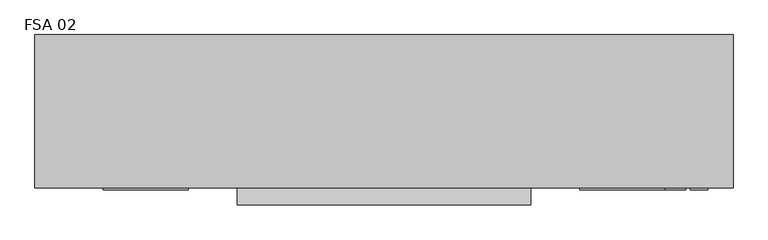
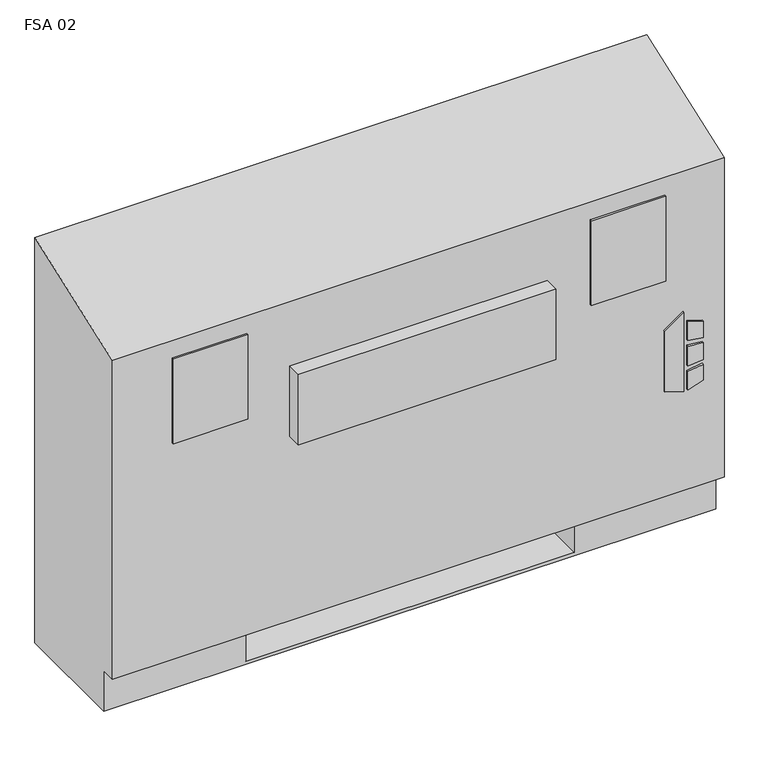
"""IFC4 building model written with IfcOpenShell, lengths in millimetres: proxy geometry, Vertical_Fan_Coil_Unit_-_FSA_-_IEC_-_2-Pipe_FS-FR_RH_2022 : FSA 02."""

from ifc_helpers import new_model, si_unit, point, frame, frame_2d, origin, place, context, project, spatial, polyline, circle_curve, trimmed, segment, composite_curve, outline, extrude, source, transform, mapped, element, save
from ifc_brep_helpers import plane_surface, revolved_surface, advanced_brep


def fsa_02_ccaf9f36(model_context):
    return source(origin(), model_context, "Body", "SolidModel", [
        extrude(outline(polyline([(263.9480703, 569.9868862), (254.0, 602.1602728), (396.1709244, 602.1602728), (373.1489183, 569.9868862), (263.9480703, 569.9868862)])), frame((0.0, 12.7, 0.0), z_axis=(0.0, 1.0, 0.0), x_axis=(0.0, 0.0, 1.0)), (0.0, 0.0, 1.0), 3.175),
        extrude(outline(polyline([(342.9473557, 608.9186058), (339.7449632, 635.0), (368.9738042, 635.0), (377.0382193, 608.9186058), (342.9473557, 608.9186058)])), frame((0.0, 12.7, 0.0), z_axis=(0.0, 1.0, 0.0), x_axis=(0.0, 0.0, 1.0)), (0.0, 0.0, 1.0), 3.175),
        extrude(outline(polyline([(291.0838288, 635.0), (287.4183279, 608.9186058), (254.0, 608.9186058), (262.6342372, 635.0), (291.0838288, 635.0)])), frame((0.0, 12.7, 0.0), z_axis=(0.0, 1.0, 0.0), x_axis=(0.0, 0.0, 1.0)), (0.0, 0.0, 1.0), 3.175),
        extrude(outline(polyline([(330.3989903, 635.0), (332.6808166, 608.9186058), (296.7432681, 608.9186058), (299.4845331, 635.0), (330.3989903, 635.0)])), frame((0.0, 12.7, 0.0), z_axis=(0.0, 1.0, 0.0), x_axis=(0.0, 0.0, 1.0)), (0.0, 0.0, 1.0), 3.175),
        extrude(outline(polyline([(-247.65, 81.534), (-247.65, 223.266), (-127.0, 223.266), (-127.0, 81.534), (-247.65, 81.534)])), frame((0.0, 0.0, 327.025), z_axis=(0.0, 0.0, 1.0), x_axis=(1.0, 0.0, 0.0)), (0.0, 0.0, 1.0), 260.35),
        extrude(outline(polyline([(-139.7, 12.7), (-266.7, 12.7), (-266.7, 15.875), (-139.7, 15.875), (-139.7, 12.7)])), frame((0.0, 0.0, 463.55), z_axis=(0.0, 0.0, 1.0), x_axis=(1.0, 0.0, 0.0)), (0.0, 0.0, 1.0), 152.4),
        extrude(outline(polyline([(571.5, 12.7), (444.5, 12.7), (444.5, 15.875), (571.5, 15.875), (571.5, 12.7)])), frame((0.0, 0.0, 463.55), z_axis=(0.0, 0.0, 1.0), x_axis=(1.0, 0.0, 0.0)), (0.0, 0.0, 1.0), 152.4),
        extrude(outline(composite_curve([segment(trimmed(circle_curve(frame_2d((495.3, 130.175)), 9.525), [point((485.775, 130.175))], [point((504.825, 130.175))], False, "CARTESIAN"), True, "CONTINUOUS"), segment(trimmed(circle_curve(frame_2d((495.3, 130.175)), 9.525), [point((504.825, 130.175))], [point((485.775, 130.175))], False, "CARTESIAN"), True, "CONTINUOUS")], self_intersect=False)), frame((0.0, 0.0, 101.6), z_axis=(0.0, 0.0, 1.0), x_axis=(1.0, 0.0, 0.0)), (0.0, 0.0, 1.0), 25.4),
        extrude(outline(polyline([(596.9, 196.85), (596.9, 63.5), (431.8, 63.5), (431.8, 196.85), (596.9, 196.85)])), frame((0.0, 0.0, 127.0), z_axis=(0.0, 0.0, 1.0), x_axis=(1.0, 0.0, 0.0)), (0.0, 0.0, 1.0), 50.8),
        extrude(outline(polyline([(371.475, -9.525), (-66.675, -9.525), (-66.675, 15.875), (371.475, 15.875), (371.475, -9.525)])), frame((0.0, 0.0, 405.1759245), z_axis=(0.0, 0.0, 1.0), x_axis=(1.0, 0.0, 0.0)), (0.0, 0.0, 1.0), 127.0),
        extrude(outline(composite_curve([segment(trimmed(circle_curve(frame_2d((109.347, 456.819)), 7.9375), [point((109.347, 464.7565))], [point((109.347, 448.8815))], False, "CARTESIAN"), True, "CONTINUOUS"), segment(trimmed(circle_curve(frame_2d((109.347, 456.819)), 7.9375), [point((109.347, 448.8815))], [point((109.347, 464.7565))], False, "CARTESIAN"), True, "CONTINUOUS")], self_intersect=False)), frame((431.8, 0.0, 0.0), z_axis=(1.0, 0.0, 0.0), x_axis=(0.0, 1.0, 0.0)), (0.0, 0.0, 1.0), 50.8),
        extrude(outline(composite_curve([segment(trimmed(circle_curve(frame_2d((157.4546, 429.4632)), 7.9375), [point((157.4546, 437.4007))], [point((157.4546, 421.5257))], False, "CARTESIAN"), True, "CONTINUOUS"), segment(trimmed(circle_curve(frame_2d((157.4546, 429.4632)), 7.9375), [point((157.4546, 421.5257))], [point((157.4546, 437.4007))], False, "CARTESIAN"), True, "CONTINUOUS")], self_intersect=False)), frame((431.8, 0.0, 0.0), z_axis=(1.0, 0.0, 0.0), x_axis=(0.0, 1.0, 0.0)), (0.0, 0.0, 1.0), 50.8),
        advanced_brep(
        [(-368.3, 244.475, 0.0), (673.1, 244.475, 0.0), (673.1, 41.275, 0.0), (-368.3, 41.275, 0.0), (-368.3, 244.475, 730.25), (673.1, 244.475, 730.25), (431.8, 244.475, 73.025), (660.4, 244.475, 73.025), (660.4, 244.475, 654.05), (431.8, 244.475, 654.05), (431.8, 244.475, 414.8650565), (460.375, 244.475, 414.8650565), (460.375, 244.475, 385.2349435), (431.8, 244.475, 385.2349435), (431.8, 244.475, 287.3375), (460.375, 244.475, 287.3375), (460.375, 244.475, 258.7625), (431.8, 244.475, 258.7625), (431.8, 244.475, 141.2875), (460.375, 244.475, 141.2875), (460.375, 244.475, 112.7125), (431.8, 244.475, 112.7125), (-127.0, 244.475, 654.05), (-355.6, 244.475, 654.05), (-355.6, 244.475, 73.025), (-127.0, 244.475, 73.025), (-127.0, 244.475, 112.7125), (-155.575, 244.475, 112.7125), (-155.575, 244.475, 141.2875), (-127.0, 244.475, 141.2875), (-127.0, 244.475, 258.7625), (-155.575, 244.475, 258.7625), (-155.575, 244.475, 287.3375), (-127.0, 244.475, 287.3375), (-127.0, 244.475, 385.2349435), (-155.575, 244.475, 385.2349435), (-155.575, 244.475, 414.8650565), (-127.0, 244.475, 414.8650565), (450.0626, 244.475, 127.0), (438.9374, 244.475, 127.0), (450.0626, 244.475, 400.05), (438.9374, 244.475, 400.05), (450.0626, 244.475, 273.05), (438.9374, 244.475, 273.05), (-134.1374, 244.475, 127.0), (-145.2626, 244.475, 127.0), (-134.1374, 244.475, 273.05), (-145.2626, 244.475, 273.05), (-134.1374, 244.475, 400.05), (-145.2626, 244.475, 400.05), (-368.3, 41.275, 73.025), (-368.3, 15.875, 73.025), (-368.3, 15.875, 647.7), (673.1, 15.875, 73.025), (673.1, 15.875, 647.7), (673.1, 41.275, 73.025), (-127.0, 41.275, 73.025), (-127.0, 225.425, 73.025), (431.8, 225.425, 73.025), (431.8, 41.275, 73.025), (431.8, 41.275, 6.35), (-127.0, 41.275, 6.35), (431.8, 41.275, 654.05), (660.4, 41.275, 654.05), (660.4, 41.275, 73.025), (431.8, 41.275, 73.025), (-127.0, 41.275, 654.05), (-127.0, 41.275, 73.025), (-355.6, 41.275, 73.025), (-355.6, 41.275, 654.05), (431.8, 225.425, 73.025), (431.8, 238.125, 112.7125), (431.8, 238.125, 141.2875), (431.8, 238.125, 258.7625), (431.8, 238.125, 287.3375), (431.8, 238.125, 385.2349435), (431.8, 238.125, 414.8650565), (-127.0, 225.425, 73.025), (-127.0, 238.125, 414.8650565), (-127.0, 238.125, 385.2349435), (-127.0, 238.125, 287.3375), (-127.0, 238.125, 258.7625), (-127.0, 238.125, 141.2875), (-127.0, 238.125, 112.7125), (-127.0, 225.425, 6.35), (431.8, 225.425, 6.35), (460.375, 238.125, 112.7125), (460.375, 238.125, 141.2875), (438.9374, 238.125, 127.0), (450.0626, 238.125, 127.0), (460.375, 238.125, 258.7625), (460.375, 238.125, 287.3375), (438.9374, 238.125, 273.05), (450.0626, 238.125, 273.05), (460.375, 238.125, 385.2349435), (460.375, 238.125, 414.8650565), (438.9374, 238.125, 400.05), (450.0626, 238.125, 400.05), (-155.575, 238.125, 141.2875), (-155.575, 238.125, 112.7125), (-145.2626, 238.125, 127.0), (-134.1374, 238.125, 127.0), (-155.575, 238.125, 287.3375), (-155.575, 238.125, 258.7625), (-145.2626, 238.125, 273.05), (-134.1374, 238.125, 273.05), (-155.575, 238.125, 414.8650565), (-155.575, 238.125, 385.2349435), (-145.2626, 238.125, 400.05), (-134.1374, 238.125, 400.05)],
        [
            (0, 1),
            (1, 2),
            (2, 3),
            (3, 0),
            (0, 4),
            (4, 5),
            (5, 1),
            (6, 7),
            (7, 8),
            (8, 9),
            (9, 10),
            (10, 11),
            (11, 12),
            (12, 13),
            (13, 14),
            (14, 15),
            (15, 16),
            (16, 17),
            (17, 18),
            (18, 19),
            (19, 20),
            (20, 21),
            (21, 6),
            (22, 23),
            (23, 24),
            (24, 25),
            (25, 26),
            (26, 27),
            (27, 28),
            (28, 29),
            (29, 30),
            (30, 31),
            (31, 32),
            (32, 33),
            (33, 34),
            (34, 35),
            (35, 36),
            (36, 37),
            (37, 22),
            (38, 39, circle_curve(frame((444.5, 244.475, 127.0), z_axis=(0.0, -1.0, 0.0), x_axis=(-1.0, 0.0, 0.0)), 5.5626)),
            (39, 38, circle_curve(frame((444.5, 244.475, 127.0), z_axis=(0.0, -1.0, 0.0), x_axis=(-1.0, 0.0, 0.0)), 5.5626)),
            (40, 41, circle_curve(frame((444.5, 244.475, 400.05), z_axis=(0.0, -1.0, 0.0), x_axis=(-1.0, 0.0, 0.0)), 5.5626)),
            (41, 40, circle_curve(frame((444.5, 244.475, 400.05), z_axis=(0.0, -1.0, 0.0), x_axis=(-1.0, 0.0, 0.0)), 5.5626)),
            (42, 43, circle_curve(frame((444.5, 244.475, 273.05), z_axis=(0.0, -1.0, 0.0), x_axis=(-1.0, 0.0, 0.0)), 5.5626)),
            (43, 42, circle_curve(frame((444.5, 244.475, 273.05), z_axis=(0.0, -1.0, 0.0), x_axis=(-1.0, 0.0, 0.0)), 5.5626)),
            (44, 45, circle_curve(frame((-139.7, 244.475, 127.0), z_axis=(0.0, -1.0, 0.0), x_axis=(-1.0, 0.0, 0.0)), 5.5626)),
            (45, 44, circle_curve(frame((-139.7, 244.475, 127.0), z_axis=(0.0, -1.0, 0.0), x_axis=(-1.0, 0.0, 0.0)), 5.5626)),
            (46, 47, circle_curve(frame((-139.7, 244.475, 273.05), z_axis=(0.0, -1.0, 0.0), x_axis=(-1.0, 0.0, 0.0)), 5.5626)),
            (47, 46, circle_curve(frame((-139.7, 244.475, 273.05), z_axis=(0.0, -1.0, 0.0), x_axis=(-1.0, 0.0, 0.0)), 5.5626)),
            (48, 49, circle_curve(frame((-139.7, 244.475, 400.05), z_axis=(0.0, -1.0, 0.0), x_axis=(-1.0, 0.0, 0.0)), 5.5626)),
            (49, 48, circle_curve(frame((-139.7, 244.475, 400.05), z_axis=(0.0, -1.0, 0.0), x_axis=(-1.0, 0.0, 0.0)), 5.5626)),
            (3, 50),
            (50, 51),
            (51, 52),
            (52, 4),
            (51, 53),
            (53, 54),
            (54, 52),
            (5, 54),
            (53, 55),
            (55, 2),
            (50, 56),
            (56, 57),
            (57, 58),
            (58, 59),
            (59, 55),
            (59, 60),
            (60, 61),
            (61, 56),
            (62, 63),
            (63, 64),
            (64, 65),
            (65, 62),
            (66, 67),
            (67, 68),
            (68, 69),
            (69, 66),
            (65, 70),
            (70, 6),
            (21, 71),
            (71, 72),
            (72, 18),
            (17, 73),
            (73, 74),
            (74, 14),
            (13, 75),
            (75, 76),
            (76, 10),
            (9, 62),
            (64, 7),
            (63, 8),
            (69, 23),
            (22, 66),
            (68, 24),
            (67, 77),
            (77, 25),
            (37, 78),
            (78, 79),
            (79, 34),
            (33, 80),
            (80, 81),
            (81, 30),
            (29, 82),
            (82, 83),
            (83, 26),
            (57, 84),
            (84, 85),
            (85, 58),
            (85, 60),
            (84, 61),
            (71, 86),
            (86, 87),
            (87, 72),
            (88, 89, circle_curve(frame((444.5, 238.125, 127.0), z_axis=(0.0, 1.0, 0.0), x_axis=(-1.0, 0.0, 0.0)), 5.5626)),
            (89, 88, circle_curve(frame((444.5, 238.125, 127.0), z_axis=(0.0, 1.0, 0.0), x_axis=(-1.0, 0.0, 0.0)), 5.5626)),
            (73, 90),
            (90, 91),
            (91, 74),
            (92, 93, circle_curve(frame((444.5, 238.125, 273.05), z_axis=(0.0, 1.0, 0.0), x_axis=(-1.0, 0.0, 0.0)), 5.5626)),
            (93, 92, circle_curve(frame((444.5, 238.125, 273.05), z_axis=(0.0, 1.0, 0.0), x_axis=(-1.0, 0.0, 0.0)), 5.5626)),
            (75, 94),
            (94, 95),
            (95, 76),
            (96, 97, circle_curve(frame((444.5, 238.125, 400.05), z_axis=(0.0, 1.0, 0.0), x_axis=(-1.0, 0.0, 0.0)), 5.5626)),
            (97, 96, circle_curve(frame((444.5, 238.125, 400.05), z_axis=(0.0, 1.0, 0.0), x_axis=(-1.0, 0.0, 0.0)), 5.5626)),
            (98, 99),
            (99, 83),
            (82, 98),
            (100, 101, circle_curve(frame((-139.7, 238.125, 127.0), z_axis=(0.0, 1.0, 0.0), x_axis=(-1.0, 0.0, 0.0)), 5.5626)),
            (101, 100, circle_curve(frame((-139.7, 238.125, 127.0), z_axis=(0.0, 1.0, 0.0), x_axis=(-1.0, 0.0, 0.0)), 5.5626)),
            (102, 103),
            (103, 81),
            (80, 102),
            (104, 105, circle_curve(frame((-139.7, 238.125, 273.05), z_axis=(0.0, 1.0, 0.0), x_axis=(-1.0, 0.0, 0.0)), 5.5626)),
            (105, 104, circle_curve(frame((-139.7, 238.125, 273.05), z_axis=(0.0, 1.0, 0.0), x_axis=(-1.0, 0.0, 0.0)), 5.5626)),
            (106, 107),
            (107, 79),
            (78, 106),
            (108, 109, circle_curve(frame((-139.7, 238.125, 400.05), z_axis=(0.0, 1.0, 0.0), x_axis=(-1.0, 0.0, 0.0)), 5.5626)),
            (109, 108, circle_curve(frame((-139.7, 238.125, 400.05), z_axis=(0.0, 1.0, 0.0), x_axis=(-1.0, 0.0, 0.0)), 5.5626)),
            (87, 19),
            (86, 20),
            (91, 15),
            (90, 16),
            (95, 11),
            (94, 12),
            (28, 98),
            (99, 27),
            (32, 102),
            (103, 31),
            (36, 106),
            (107, 35),
            (88, 39),
            (38, 89),
            (96, 41),
            (40, 97),
            (92, 43),
            (42, 93),
            (100, 45),
            (44, 101),
            (104, 47),
            (46, 105),
            (108, 49),
            (48, 109),
        ],
        [
            plane_surface(frame((-368.3, 244.475, 0.0), z_axis=(0.0, 0.0, -1.0), x_axis=(1.0, 0.0, 0.0))),
            plane_surface(frame((673.1, 244.475, 730.25), z_axis=(0.0, 1.0, 0.0), x_axis=(0.0, 0.0, -1.0))),
            plane_surface(frame((-368.3, 244.475, 730.25), z_axis=(-1.0, 0.0, 0.0), x_axis=(0.0, 0.0, -1.0))),
            plane_surface(frame((-368.3, 15.875, 730.25), z_axis=(0.0, -1.0, 0.0), x_axis=(0.0, 0.0, -1.0))),
            plane_surface(frame((673.1, 15.875, 730.25), z_axis=(1.0, 0.0, 0.0), x_axis=(0.0, 0.0, -1.0))),
            plane_surface(frame((-368.3, 15.875, 73.025), z_axis=(0.0, 0.0, -1.0), x_axis=(1.0, 0.0, 0.0))),
            plane_surface(frame((-368.3, 41.275, 73.025), z_axis=(0.0, -1.0, 0.0), x_axis=(1.0, 0.0, 0.0))),
            plane_surface(frame((431.8, 41.275, 654.05), z_axis=(0.0, 1.0, 0.0), x_axis=(0.0, 0.0, -1.0))),
            plane_surface(frame((431.8, 41.275, 654.05), z_axis=(1.0, 0.0, 0.0), x_axis=(0.0, 1.0, 0.0))),
            plane_surface(frame((431.8, 41.275, 73.025), z_axis=(0.0, 0.0, 1.0), x_axis=(0.0, 1.0, 0.0))),
            plane_surface(frame((660.4, 41.275, 73.025), z_axis=(-1.0, 0.0, 0.0), x_axis=(0.0, 1.0, 0.0))),
            plane_surface(frame((660.4, 41.275, 654.05), z_axis=(0.0, 0.0, -1.0), x_axis=(0.0, 1.0, 0.0))),
            plane_surface(frame((-127.0, 41.275, 654.05), z_axis=(0.0, 0.0, -1.0), x_axis=(0.0, 1.0, 0.0))),
            plane_surface(frame((-355.6, 41.275, 654.05), z_axis=(1.0, 0.0, 0.0), x_axis=(0.0, 1.0, 0.0))),
            plane_surface(frame((-355.6, 41.275, 73.025), z_axis=(0.0, 0.0, 1.0), x_axis=(0.0, 1.0, 0.0))),
            plane_surface(frame((-127.0, 41.275, 73.025), z_axis=(-1.0, 0.0, 0.0), x_axis=(0.0, 1.0, 0.0))),
            plane_surface(frame((431.8, 225.425, 73.025), z_axis=(0.0, -1.0, 0.0), x_axis=(0.0, 0.0, -1.0))),
            plane_surface(frame((431.8, 225.425, 73.025), z_axis=(-1.0, 0.0, 0.0), x_axis=(0.0, -1.0, 0.0))),
            plane_surface(frame((431.8, 225.425, 6.35), z_axis=(0.0, 0.0, 1.0), x_axis=(0.0, -1.0, 0.0))),
            plane_surface(frame((-127.0, 225.425, 6.35), z_axis=(1.0, 0.0, 0.0), x_axis=(0.0, -1.0, 0.0))),
            plane_surface(frame((460.375, 238.125, 141.2875), z_axis=(0.0, -1.0, 0.0), x_axis=(-1.0, 0.0, 0.0))),
            plane_surface(frame((431.8, 244.475, 141.2875), z_axis=(0.0, 0.0, 1.0), x_axis=(0.0, -1.0, 0.0))),
            plane_surface(frame((460.375, 244.475, 141.2875), z_axis=(1.0, 0.0, 0.0), x_axis=(0.0, -1.0, 0.0))),
            plane_surface(frame((460.375, 244.475, 112.7125), z_axis=(0.0, 0.0, -1.0), x_axis=(0.0, -1.0, 0.0))),
            plane_surface(frame((431.8, 244.475, 287.3375), z_axis=(0.0, 0.0, 1.0), x_axis=(0.0, -1.0, 0.0))),
            plane_surface(frame((460.375, 244.475, 287.3375), z_axis=(1.0, 0.0, 0.0), x_axis=(0.0, -1.0, 0.0))),
            plane_surface(frame((460.375, 244.475, 258.7625), z_axis=(0.0, 0.0, -1.0), x_axis=(0.0, -1.0, 0.0))),
            plane_surface(frame((431.8, 244.475, 414.8650565), z_axis=(0.0, 0.0, 1.0), x_axis=(0.0, -1.0, 0.0))),
            plane_surface(frame((460.375, 244.475, 414.8650565), z_axis=(1.0, 0.0, 0.0), x_axis=(0.0, -1.0, 0.0))),
            plane_surface(frame((460.375, 244.475, 385.2349435), z_axis=(0.0, 0.0, -1.0), x_axis=(0.0, -1.0, 0.0))),
            plane_surface(frame((-155.575, 244.475, 141.2875), z_axis=(0.0, 0.0, 1.0), x_axis=(0.0, -1.0, 0.0))),
            plane_surface(frame((-127.0, 244.475, 112.7125), z_axis=(0.0, 0.0, -1.0), x_axis=(0.0, -1.0, 0.0))),
            plane_surface(frame((-155.575, 244.475, 112.7125), z_axis=(-1.0, 0.0, 0.0), x_axis=(0.0, -1.0, 0.0))),
            plane_surface(frame((-155.575, 244.475, 287.3375), z_axis=(0.0, 0.0, 1.0), x_axis=(0.0, -1.0, 0.0))),
            plane_surface(frame((-127.0, 244.475, 258.7625), z_axis=(0.0, 0.0, -1.0), x_axis=(0.0, -1.0, 0.0))),
            plane_surface(frame((-155.575, 244.475, 258.7625), z_axis=(-1.0, 0.0, 0.0), x_axis=(0.0, -1.0, 0.0))),
            plane_surface(frame((-155.575, 244.475, 414.8650565), z_axis=(0.0, 0.0, 1.0), x_axis=(0.0, -1.0, 0.0))),
            plane_surface(frame((-127.0, 244.475, 385.2349435), z_axis=(0.0, 0.0, -1.0), x_axis=(0.0, -1.0, 0.0))),
            plane_surface(frame((-155.575, 244.475, 385.2349435), z_axis=(-1.0, 0.0, 0.0), x_axis=(0.0, -1.0, 0.0))),
            revolved_surface(polyline([(438.9374, 238.125, 127.0), (438.9374, 244.475, 127.0)]), (444.5, 244.475, 127.0), (0.0, -1.0, 0.0)),
            revolved_surface(polyline([(438.9374, 238.125, 400.05), (438.9374, 244.475, 400.05)]), (444.5, 244.475, 400.05), (0.0, -1.0, 0.0)),
            revolved_surface(polyline([(438.9374, 238.125, 273.05), (438.9374, 244.475, 273.05)]), (444.5, 244.475, 273.05), (0.0, -1.0, 0.0)),
            revolved_surface(polyline([(-145.2626, 238.125, 127.0), (-145.2626, 244.475, 127.0)]), (-139.7, 244.475, 127.0), (0.0, -1.0, 0.0)),
            revolved_surface(polyline([(-145.2626, 238.125, 273.05), (-145.2626, 244.475, 273.05)]), (-139.7, 244.475, 273.05), (0.0, -1.0, 0.0)),
            revolved_surface(polyline([(-145.2626, 238.125, 400.05), (-145.2626, 244.475, 400.05)]), (-139.7, 244.475, 400.05), (0.0, -1.0, 0.0)),
            plane_surface(frame((-368.3, 244.475, 730.25), z_axis=(0.0, -0.33964446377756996, 0.9405538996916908), x_axis=(1.0, 0.0, 0.0))),
        ],
        [
            (0, [[1, 2, 3, 4]]),
            (1, [[-1, 5, 6, 7], [8, 9, 10, 11, 12, 13, 14, 15, 16, 17, 18, 19, 20, 21, 22, 23], [24, 25, 26, 27, 28, 29, 30, 31, 32, 33, 34, 35, 36, 37, 38, 39], [40, 41], [42, 43], [44, 45], [46, 47], [48, 49], [50, 51]]),
            (2, [[-5, -4, 52, 53, 54, 55]]),
            (3, [[56, 57, 58, -54]]),
            (4, [[-7, 59, -57, 60, 61, -2]]),
            (5, [[-53, 62, 63, 64, 65, 66, -60, -56]]),
            (6, [[-3, -61, -66, 67, 68, 69, -62, -52]]),
            (7, [[70, 71, 72, 73]]),
            (7, [[74, 75, 76, 77]]),
            (8, [[-73, 78, 79, -23, 80, 81, 82, -19, 83, 84, 85, -15, 86, 87, 88, -11, 89]]),
            (9, [[-72, 90, -8, -79, -78]]),
            (10, [[-71, 91, -9, -90]]),
            (11, [[-70, -89, -10, -91]]),
            (12, [[-77, 92, -24, 93]]),
            (13, [[-76, 94, -25, -92]]),
            (14, [[-75, 95, 96, -26, -94]]),
            (15, [[-74, -93, -39, 97, 98, 99, -35, 100, 101, 102, -31, 103, 104, 105, -27, -96, -95]]),
            (16, [[-64, 106, 107, 108]]),
            (17, [[-108, 109, -67, -65]]),
            (18, [[-107, 110, -68, -109]]),
            (19, [[-106, -63, -69, -110]]),
            (20, [[111, 112, 113, -81], [114, 115]]),
            (20, [[116, 117, 118, -84], [119, 120]]),
            (20, [[121, 122, 123, -87], [124, 125]]),
            (20, [[126, 127, -104, 128], [129, 130]]),
            (20, [[131, 132, -101, 133], [134, 135]]),
            (20, [[136, 137, -98, 138], [139, 140]]),
            (21, [[-113, 141, -20, -82]]),
            (22, [[-112, 142, -21, -141]]),
            (23, [[-111, -80, -22, -142]]),
            (24, [[-118, 143, -16, -85]]),
            (25, [[-117, 144, -17, -143]]),
            (26, [[-116, -83, -18, -144]]),
            (27, [[-123, 145, -12, -88]]),
            (28, [[-122, 146, -13, -145]]),
            (29, [[-121, -86, -14, -146]]),
            (30, [[-128, -103, -30, 147]]),
            (31, [[-127, 148, -28, -105]]),
            (32, [[-126, -147, -29, -148]]),
            (33, [[-133, -100, -34, 149]]),
            (34, [[-132, 150, -32, -102]]),
            (35, [[-131, -149, -33, -150]]),
            (36, [[-138, -97, -38, 151]]),
            (37, [[-137, 152, -36, -99]]),
            (38, [[-136, -151, -37, -152]]),
            (39, [[153, -40, 154, -114]]),
            (39, [[-153, -115, -154, -41]]),
            (40, [[155, -42, 156, -124]]),
            (40, [[-155, -125, -156, -43]]),
            (41, [[157, -44, 158, -119]]),
            (41, [[-157, -120, -158, -45]]),
            (42, [[159, -46, 160, -129]]),
            (42, [[-159, -130, -160, -47]]),
            (43, [[161, -48, 162, -134]]),
            (43, [[-161, -135, -162, -49]]),
            (44, [[163, -50, 164, -139]]),
            (44, [[-163, -140, -164, -51]]),
            (45, [[-6, -55, -58, -59]]),
        ],
    ),
    ])


if __name__ == "__main__":
    model = new_model("IFC4")
    model_context = context("Model", 3, world=origin())
    ifc_project = project(units=[si_unit("LENGTHUNIT", "METRE", prefix="MILLI")], contexts=[model_context])
    site = spatial("IfcSite", under=ifc_project)
    building = spatial("IfcBuilding", under=site)
    placement = place(None, origin())
    fsa_02_shape = fsa_02_ccaf9f36(model_context)
    element("IfcBuildingElementProxy", 1, Name="Vertical_Fan_Coil_Unit_-_FSA_-_IEC_-_2-Pipe_FS-FR_RH_2022 : FSA 02", ObjectType="Vertical_Fan_Coil_Unit_-_FSA_-_IEC_-_2-Pipe_FS-FR_RH_2022 : FSA 02", at=placement, inside=building, context=model_context, shape_type="MappedRepresentation", body=[
        mapped(fsa_02_shape, transform((0.0, 0.0, 0.0), x_axis=(1.0, 0.0, 0.0), y_axis=(0.0, 1.0, 0.0), z_axis=(0.0, 0.0, 1.0))),
    ])
    save(model, "model.ifc")
